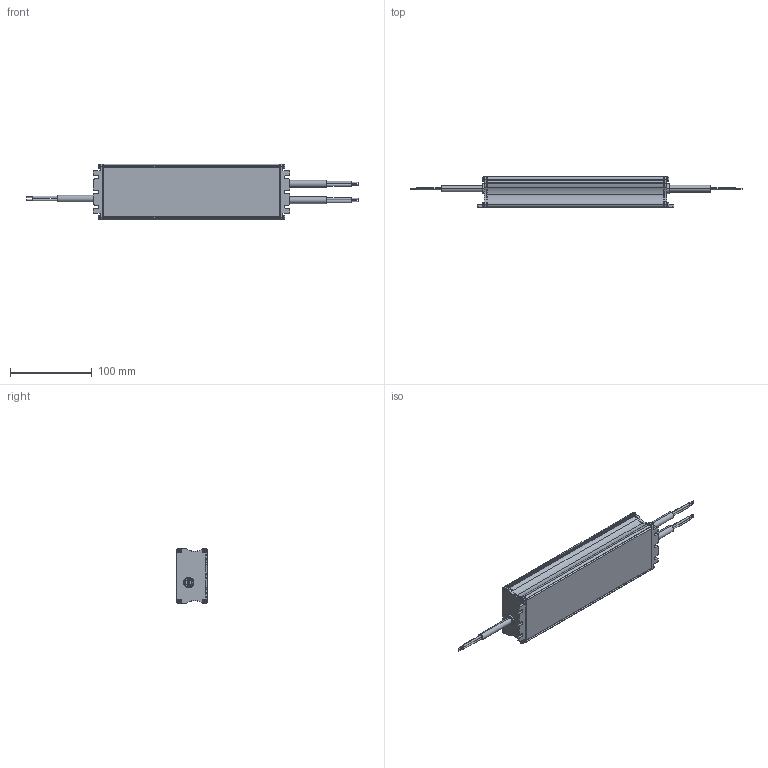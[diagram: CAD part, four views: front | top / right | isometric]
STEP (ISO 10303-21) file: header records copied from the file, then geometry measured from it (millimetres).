
FILE_DESCRIPTION((''),'2;1');
FILE_NAME('DRIVER_USCO150140GC_ASM','2018-04-23T',('TAYLOR.PH.CHAO'),(''),'PRO/ENGINEER BY PARAMETRIC TECHNOLOGY CORPORATION, 2009440','PRO/ENGINEER BY PARAMETRIC TECHNOLOGY CORPORATION, 2009440','');
FILE_SCHEMA(('CONFIG_CONTROL_DESIGN'));
Length unit declared in the file: millimetre
Products named in the file (10): HOUSING_USCO150140GC; SEALANT_OUT_USCO150140GC; BRACKET_OUT_USCO150140GC; SEALANT_IN_USCO150140GC; BRACKET_IN_USCO150140GC; PCB_USCO150140GC; SCREW_PAN-M3-10L-NI; CABLE_INPUT_CV_GEN2_100W; CABLE_OUTPUT_CV_IP67_100W; DRIVER_USCO150140GC_ASM
Assembly tree (17 placements, depth 2):
  DRIVER_USCO150140GC_ASM
    HOUSING_USCO150140GC
    SEALANT_OUT_USCO150140GC
    BRACKET_OUT_USCO150140GC
    SEALANT_IN_USCO150140GC
    BRACKET_IN_USCO150140GC
    PCB_USCO150140GC
    SCREW_PAN-M3-10L-NI  x8
    CABLE_INPUT_CV_GEN2_100W
    CABLE_OUTPUT_CV_IP67_100W  x2
Bounding box: 405 x 37 x 68 mm (x, y, z)
Volume: 152008 mm3; surface area: 151200 mm2
Topology: 17 solids, 17 shells, 1280 faces, 3493 edges, 2309 vertices
Faces by surface type: plane 834, cylinder 336, extrusion 53, cone 31, torus 26
Entity records: 34416 total; most frequent: CARTESIAN_POINT 8649, ORIENTED_EDGE 5474, DIRECTION 4991, EDGE_CURVE 2737, VECTOR 2159, LINE 2106, VERTEX_POINT 1811, AXIS2_PLACEMENT_3D 1416
